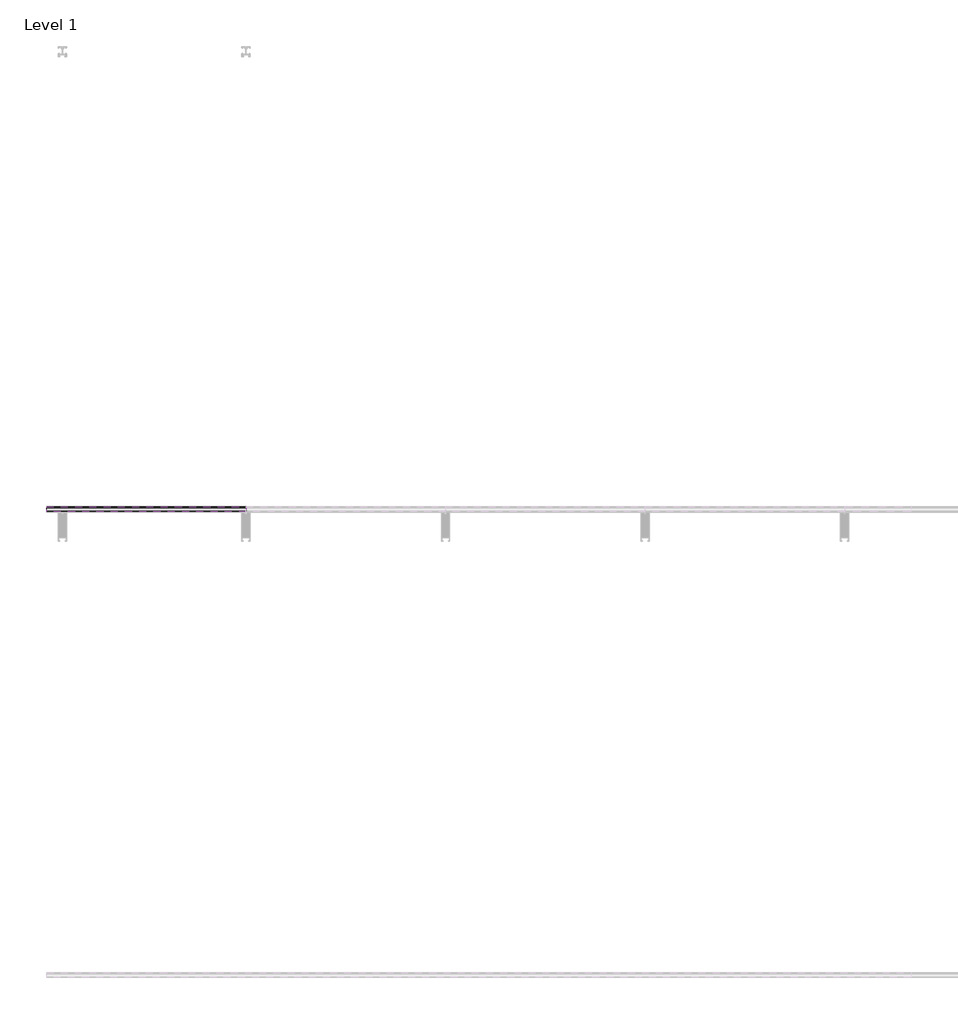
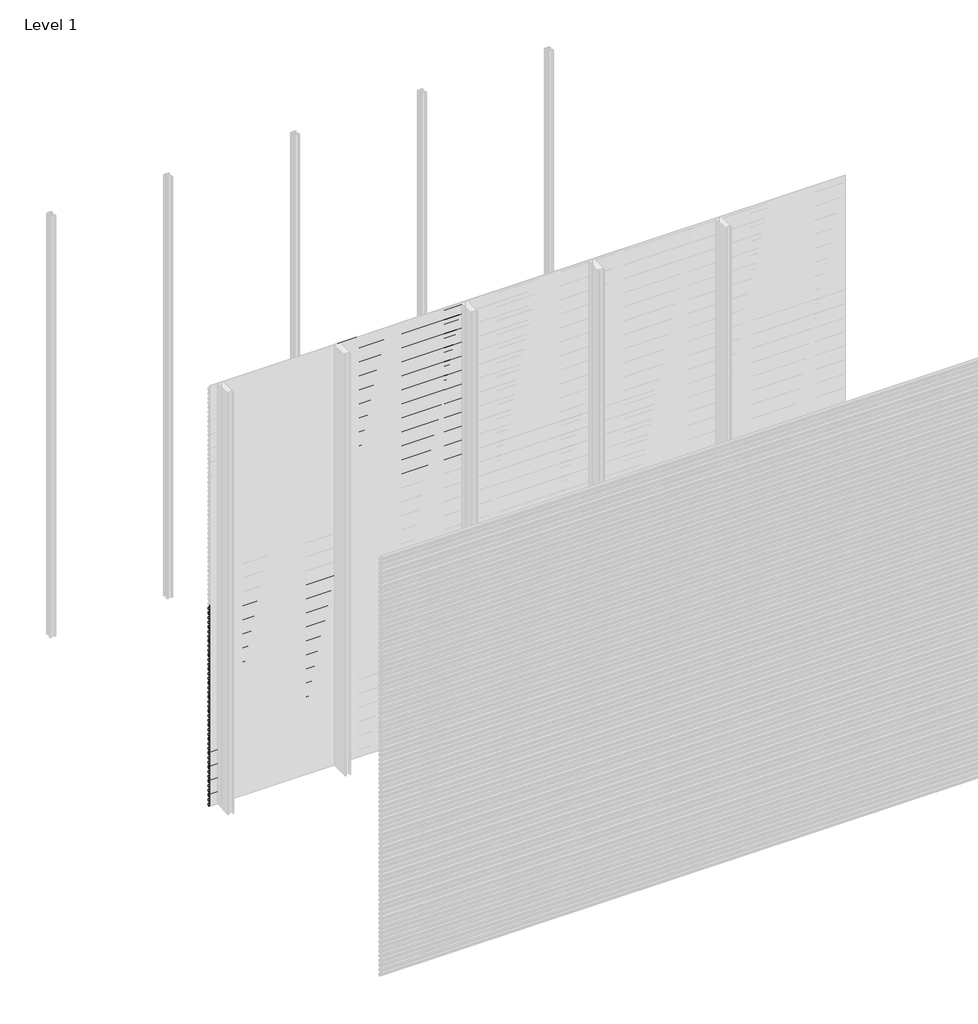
# One storey, part 15 of 96: 77 proxies.
"""IFC4 building model written with IfcOpenShell, lengths in millimetres."""

from ifc_helpers import new_model, si_unit, frame, origin, place, context, project, spatial, polyline, outline, extrude, element, save

model = new_model("IFC4")

# Units and contexts
model_context = context("Model", 3, world=origin())
ifc_project = project(units=[si_unit("LENGTHUNIT", "METRE", prefix="MILLI")], contexts=[model_context])

# Site, building, storey
site = spatial("IfcSite", under=ifc_project)
building = spatial("IfcBuilding", under=site)
storey = spatial("IfcBuildingStorey", under=building, Name="Level 1", Elevation=0.0)

# Proxies
placement = place(None, origin())
element("IfcBuildingElementProxy", 1, Name="Wall Sweeps", at=placement, inside=storey, context=model_context, shape_type="SweptSolid", body=[
    extrude(outline(polyline([(-47977.6, 1406.6655033), (-47977.6, 1392.3779188), (-47982.4114965, 1389.6), (-47982.4114965, 1390.8701706), (-47978.85, 1392.9264016), (-47978.85, 1405.9437382), (-47998.0, 1417.0000799), (-47998.0, 1431.9), (-47996.75, 1431.9), (-47996.75, 1417.7217609), (-47977.6, 1406.6655033)])), frame((0.0, 0.0, 0.0), z_axis=(1.0, 0.0, 0.0), x_axis=(0.0, 1.0, 0.0)), (0.0, 0.0, 1.0), 857.1428571),
])
element("IfcBuildingElementProxy", 2, Name="Wall Sweeps", at=placement, inside=storey, context=model_context, shape_type="SweptSolid", body=[
    extrude(outline(polyline([(-47977.6, 1373.3655033), (-47977.6, 1359.0779188), (-47982.4114965, 1356.3), (-47982.4114965, 1357.5701706), (-47978.85, 1359.6264016), (-47978.85, 1372.6437382), (-47998.0, 1383.7000799), (-47998.0, 1398.6), (-47996.75, 1398.6), (-47996.75, 1384.4217609), (-47977.6, 1373.3655033)])), frame((0.0, 0.0, 0.0), z_axis=(1.0, 0.0, 0.0), x_axis=(0.0, 1.0, 0.0)), (0.0, 0.0, 1.0), 857.1428571),
])
element("IfcBuildingElementProxy", 3, Name="Wall Sweeps", at=placement, inside=storey, context=model_context, shape_type="SweptSolid", body=[
    extrude(outline(polyline([(-47977.6, 1340.0655033), (-47977.6, 1325.7779188), (-47982.4114965, 1323.0), (-47982.4114965, 1324.2701706), (-47978.85, 1326.3264016), (-47978.85, 1339.3437382), (-47998.0, 1350.4000799), (-47998.0, 1365.3), (-47996.75, 1365.3), (-47996.75, 1351.1217609), (-47977.6, 1340.0655033)])), frame((0.0, 0.0, 0.0), z_axis=(1.0, 0.0, 0.0), x_axis=(0.0, 1.0, 0.0)), (0.0, 0.0, 1.0), 857.1428571),
])
element("IfcBuildingElementProxy", 4, Name="Wall Sweeps", at=placement, inside=storey, context=model_context, shape_type="SweptSolid", body=[
    extrude(outline(polyline([(-47977.6, 1306.7655033), (-47977.6, 1292.4779188), (-47982.4114965, 1289.7), (-47982.4114965, 1290.9701706), (-47978.85, 1293.0264016), (-47978.85, 1306.0437382), (-47998.0, 1317.1000799), (-47998.0, 1332.0), (-47996.75, 1332.0), (-47996.75, 1317.8217609), (-47977.6, 1306.7655033)])), frame((0.0, 0.0, 0.0), z_axis=(1.0, 0.0, 0.0), x_axis=(0.0, 1.0, 0.0)), (0.0, 0.0, 1.0), 857.1428571),
])
element("IfcBuildingElementProxy", 5, Name="Wall Sweeps", at=placement, inside=storey, context=model_context, shape_type="SweptSolid", body=[
    extrude(outline(polyline([(-47977.6, 1273.4655033), (-47977.6, 1259.1779188), (-47982.4114965, 1256.4), (-47982.4114965, 1257.6701706), (-47978.85, 1259.7264016), (-47978.85, 1272.7437382), (-47998.0, 1283.8000799), (-47998.0, 1298.7), (-47996.75, 1298.7), (-47996.75, 1284.5217609), (-47977.6, 1273.4655033)])), frame((0.0, 0.0, 0.0), z_axis=(1.0, 0.0, 0.0), x_axis=(0.0, 1.0, 0.0)), (0.0, 0.0, 1.0), 857.1428571),
])
element("IfcBuildingElementProxy", 6, Name="Wall Sweeps", at=placement, inside=storey, context=model_context, shape_type="SweptSolid", body=[
    extrude(outline(polyline([(-47977.6, 1240.1655033), (-47977.6, 1225.8779188), (-47982.4114965, 1223.1), (-47982.4114965, 1224.3701706), (-47978.85, 1226.4264016), (-47978.85, 1239.4437382), (-47998.0, 1250.5000799), (-47998.0, 1265.4), (-47996.75, 1265.4), (-47996.75, 1251.2217609), (-47977.6, 1240.1655033)])), frame((0.0, 0.0, 0.0), z_axis=(1.0, 0.0, 0.0), x_axis=(0.0, 1.0, 0.0)), (0.0, 0.0, 1.0), 857.1428571),
])
element("IfcBuildingElementProxy", 7, Name="Wall Sweeps", at=placement, inside=storey, context=model_context, shape_type="SweptSolid", body=[
    extrude(outline(polyline([(-47977.6, 1206.8655033), (-47977.6, 1192.5779188), (-47982.4114965, 1189.8), (-47982.4114965, 1191.0701706), (-47978.85, 1193.1264016), (-47978.85, 1206.1437382), (-47998.0, 1217.2000799), (-47998.0, 1232.1), (-47996.75, 1232.1), (-47996.75, 1217.9217609), (-47977.6, 1206.8655033)])), frame((0.0, 0.0, 0.0), z_axis=(1.0, 0.0, 0.0), x_axis=(0.0, 1.0, 0.0)), (0.0, 0.0, 1.0), 857.1428571),
])
element("IfcBuildingElementProxy", 8, Name="Wall Sweeps", at=placement, inside=storey, context=model_context, shape_type="SweptSolid", body=[
    extrude(outline(polyline([(-47977.6, 1173.5655033), (-47977.6, 1159.2779188), (-47982.4114965, 1156.5), (-47982.4114965, 1157.7701706), (-47978.85, 1159.8264016), (-47978.85, 1172.8437382), (-47998.0, 1183.9000799), (-47998.0, 1198.8), (-47996.75, 1198.8), (-47996.75, 1184.6217609), (-47977.6, 1173.5655033)])), frame((0.0, 0.0, 0.0), z_axis=(1.0, 0.0, 0.0), x_axis=(0.0, 1.0, 0.0)), (0.0, 0.0, 1.0), 857.1428571),
])
element("IfcBuildingElementProxy", 9, Name="Wall Sweeps", at=placement, inside=storey, context=model_context, shape_type="SweptSolid", body=[
    extrude(outline(polyline([(-47977.6, 1140.2655033), (-47977.6, 1125.9779188), (-47982.4114965, 1123.2), (-47982.4114965, 1124.4701706), (-47978.85, 1126.5264016), (-47978.85, 1139.5437382), (-47998.0, 1150.6000799), (-47998.0, 1165.5), (-47996.75, 1165.5), (-47996.75, 1151.3217609), (-47977.6, 1140.2655033)])), frame((0.0, 0.0, 0.0), z_axis=(1.0, 0.0, 0.0), x_axis=(0.0, 1.0, 0.0)), (0.0, 0.0, 1.0), 857.1428571),
])
element("IfcBuildingElementProxy", 10, Name="Wall Sweeps", at=placement, inside=storey, context=model_context, shape_type="SweptSolid", body=[
    extrude(outline(polyline([(-47977.6, 1106.9655033), (-47977.6, 1092.6779188), (-47982.4114965, 1089.9), (-47982.4114965, 1091.1701706), (-47978.85, 1093.2264016), (-47978.85, 1106.2437382), (-47998.0, 1117.3000799), (-47998.0, 1132.2), (-47996.75, 1132.2), (-47996.75, 1118.0217609), (-47977.6, 1106.9655033)])), frame((0.0, 0.0, 0.0), z_axis=(1.0, 0.0, 0.0), x_axis=(0.0, 1.0, 0.0)), (0.0, 0.0, 1.0), 857.1428571),
])
element("IfcBuildingElementProxy", 11, Name="Wall Sweeps", at=placement, inside=storey, context=model_context, shape_type="SweptSolid", body=[
    extrude(outline(polyline([(-47977.6, 1073.6655033), (-47977.6, 1059.3779188), (-47982.4114965, 1056.6), (-47982.4114965, 1057.8701706), (-47978.85, 1059.9264016), (-47978.85, 1072.9437382), (-47998.0, 1084.0000799), (-47998.0, 1098.9), (-47996.75, 1098.9), (-47996.75, 1084.7217609), (-47977.6, 1073.6655033)])), frame((0.0, 0.0, 0.0), z_axis=(1.0, 0.0, 0.0), x_axis=(0.0, 1.0, 0.0)), (0.0, 0.0, 1.0), 857.1428571),
])
element("IfcBuildingElementProxy", 12, Name="Wall Sweeps", at=placement, inside=storey, context=model_context, shape_type="SweptSolid", body=[
    extrude(outline(polyline([(-47977.6, 1040.3655033), (-47977.6, 1026.0779188), (-47982.4114965, 1023.3), (-47982.4114965, 1024.5701706), (-47978.85, 1026.6264016), (-47978.85, 1039.6437382), (-47998.0, 1050.7000799), (-47998.0, 1065.6), (-47996.75, 1065.6), (-47996.75, 1051.4217609), (-47977.6, 1040.3655033)])), frame((0.0, 0.0, 0.0), z_axis=(1.0, 0.0, 0.0), x_axis=(0.0, 1.0, 0.0)), (0.0, 0.0, 1.0), 857.1428571),
])
element("IfcBuildingElementProxy", 13, Name="Wall Sweeps", at=placement, inside=storey, context=model_context, shape_type="SweptSolid", body=[
    extrude(outline(polyline([(-47977.6, 1007.0655033), (-47977.6, 992.7779188), (-47982.4114965, 990.0), (-47982.4114965, 991.2701706), (-47978.85, 993.3264016), (-47978.85, 1006.3437382), (-47998.0, 1017.4000799), (-47998.0, 1032.3), (-47996.75, 1032.3), (-47996.75, 1018.1217609), (-47977.6, 1007.0655033)])), frame((0.0, 0.0, 0.0), z_axis=(1.0, 0.0, 0.0), x_axis=(0.0, 1.0, 0.0)), (0.0, 0.0, 1.0), 857.1428571),
])
element("IfcBuildingElementProxy", 14, Name="Wall Sweeps", at=placement, inside=storey, context=model_context, shape_type="SweptSolid", body=[
    extrude(outline(polyline([(-47977.6, 973.7655033), (-47977.6, 959.4779188), (-47982.4114965, 956.7), (-47982.4114965, 957.9701706), (-47978.85, 960.0264016), (-47978.85, 973.0437382), (-47998.0, 984.1000799), (-47998.0, 999.0), (-47996.75, 999.0), (-47996.75, 984.8217609), (-47977.6, 973.7655033)])), frame((0.0, 0.0, 0.0), z_axis=(1.0, 0.0, 0.0), x_axis=(0.0, 1.0, 0.0)), (0.0, 0.0, 1.0), 857.1428571),
])
element("IfcBuildingElementProxy", 15, Name="Wall Sweeps", at=placement, inside=storey, context=model_context, shape_type="SweptSolid", body=[
    extrude(outline(polyline([(-47977.6, 940.4655033), (-47977.6, 926.1779188), (-47982.4114965, 923.4), (-47982.4114965, 924.6701706), (-47978.85, 926.7264016), (-47978.85, 939.7437382), (-47998.0, 950.8000799), (-47998.0, 965.7), (-47996.75, 965.7), (-47996.75, 951.5217609), (-47977.6, 940.4655033)])), frame((0.0, 0.0, 0.0), z_axis=(1.0, 0.0, 0.0), x_axis=(0.0, 1.0, 0.0)), (0.0, 0.0, 1.0), 857.1428571),
])
element("IfcBuildingElementProxy", 16, Name="Wall Sweeps", at=placement, inside=storey, context=model_context, shape_type="SweptSolid", body=[
    extrude(outline(polyline([(-47977.6, 907.1655033), (-47977.6, 892.8779188), (-47982.4114965, 890.1), (-47982.4114965, 891.3701706), (-47978.85, 893.4264016), (-47978.85, 906.4437382), (-47998.0, 917.5000799), (-47998.0, 932.4), (-47996.75, 932.4), (-47996.75, 918.2217609), (-47977.6, 907.1655033)])), frame((0.0, 0.0, 0.0), z_axis=(1.0, 0.0, 0.0), x_axis=(0.0, 1.0, 0.0)), (0.0, 0.0, 1.0), 857.1428571),
])
element("IfcBuildingElementProxy", 17, Name="Wall Sweeps", at=placement, inside=storey, context=model_context, shape_type="SweptSolid", body=[
    extrude(outline(polyline([(-47977.6, 873.8655033), (-47977.6, 859.5779188), (-47982.4114965, 856.8), (-47982.4114965, 858.0701706), (-47978.85, 860.1264016), (-47978.85, 873.1437382), (-47998.0, 884.2000799), (-47998.0, 899.1), (-47996.75, 899.1), (-47996.75, 884.9217609), (-47977.6, 873.8655033)])), frame((0.0, 0.0, 0.0), z_axis=(1.0, 0.0, 0.0), x_axis=(0.0, 1.0, 0.0)), (0.0, 0.0, 1.0), 857.1428571),
])
element("IfcBuildingElementProxy", 18, Name="Wall Sweeps", at=placement, inside=storey, context=model_context, shape_type="SweptSolid", body=[
    extrude(outline(polyline([(-47977.6, 840.5655033), (-47977.6, 826.2779188), (-47982.4114965, 823.5), (-47982.4114965, 824.7701706), (-47978.85, 826.8264016), (-47978.85, 839.8437382), (-47998.0, 850.9000799), (-47998.0, 865.8), (-47996.75, 865.8), (-47996.75, 851.6217609), (-47977.6, 840.5655033)])), frame((0.0, 0.0, 0.0), z_axis=(1.0, 0.0, 0.0), x_axis=(0.0, 1.0, 0.0)), (0.0, 0.0, 1.0), 857.1428571),
])
element("IfcBuildingElementProxy", 19, Name="Wall Sweeps", at=placement, inside=storey, context=model_context, shape_type="SweptSolid", body=[
    extrude(outline(polyline([(-47977.6, 807.2655033), (-47977.6, 792.9779188), (-47982.4114965, 790.2), (-47982.4114965, 791.4701706), (-47978.85, 793.5264016), (-47978.85, 806.5437382), (-47998.0, 817.6000799), (-47998.0, 832.5), (-47996.75, 832.5), (-47996.75, 818.3217609), (-47977.6, 807.2655033)])), frame((0.0, 0.0, 0.0), z_axis=(1.0, 0.0, 0.0), x_axis=(0.0, 1.0, 0.0)), (0.0, 0.0, 1.0), 857.1428571),
])
element("IfcBuildingElementProxy", 20, Name="Wall Sweeps", at=placement, inside=storey, context=model_context, shape_type="SweptSolid", body=[
    extrude(outline(polyline([(-47977.6, 773.9655033), (-47977.6, 759.6779188), (-47982.4114965, 756.9), (-47982.4114965, 758.1701706), (-47978.85, 760.2264016), (-47978.85, 773.2437382), (-47998.0, 784.3000799), (-47998.0, 799.2), (-47996.75, 799.2), (-47996.75, 785.0217609), (-47977.6, 773.9655033)])), frame((0.0, 0.0, 0.0), z_axis=(1.0, 0.0, 0.0), x_axis=(0.0, 1.0, 0.0)), (0.0, 0.0, 1.0), 857.1428571),
])
element("IfcBuildingElementProxy", 21, Name="Wall Sweeps", at=placement, inside=storey, context=model_context, shape_type="SweptSolid", body=[
    extrude(outline(polyline([(-47977.6, 740.6655033), (-47977.6, 726.3779188), (-47982.4114965, 723.6), (-47982.4114965, 724.8701706), (-47978.85, 726.9264016), (-47978.85, 739.9437382), (-47998.0, 751.0000799), (-47998.0, 765.9), (-47996.75, 765.9), (-47996.75, 751.7217609), (-47977.6, 740.6655033)])), frame((0.0, 0.0, 0.0), z_axis=(1.0, 0.0, 0.0), x_axis=(0.0, 1.0, 0.0)), (0.0, 0.0, 1.0), 857.1428571),
])
element("IfcBuildingElementProxy", 22, Name="Wall Sweeps", at=placement, inside=storey, context=model_context, shape_type="SweptSolid", body=[
    extrude(outline(polyline([(-47977.6, 707.3655033), (-47977.6, 693.0779188), (-47982.4114965, 690.3), (-47982.4114965, 691.5701706), (-47978.85, 693.6264016), (-47978.85, 706.6437382), (-47998.0, 717.7000799), (-47998.0, 732.6), (-47996.75, 732.6), (-47996.75, 718.4217609), (-47977.6, 707.3655033)])), frame((0.0, 0.0, 0.0), z_axis=(1.0, 0.0, 0.0), x_axis=(0.0, 1.0, 0.0)), (0.0, 0.0, 1.0), 857.1428571),
])
element("IfcBuildingElementProxy", 23, Name="Wall Sweeps", at=placement, inside=storey, context=model_context, shape_type="SweptSolid", body=[
    extrude(outline(polyline([(-47977.6, 674.0655033), (-47977.6, 659.7779188), (-47982.4114965, 657.0), (-47982.4114965, 658.2701706), (-47978.85, 660.3264016), (-47978.85, 673.3437382), (-47998.0, 684.4000799), (-47998.0, 699.3), (-47996.75, 699.3), (-47996.75, 685.1217609), (-47977.6, 674.0655033)])), frame((0.0, 0.0, 0.0), z_axis=(1.0, 0.0, 0.0), x_axis=(0.0, 1.0, 0.0)), (0.0, 0.0, 1.0), 857.1428571),
])
element("IfcBuildingElementProxy", 24, Name="Wall Sweeps", at=placement, inside=storey, context=model_context, shape_type="SweptSolid", body=[
    extrude(outline(polyline([(-47977.6, 640.7655033), (-47977.6, 626.4779188), (-47982.4114965, 623.7), (-47982.4114965, 624.9701706), (-47978.85, 627.0264016), (-47978.85, 640.0437382), (-47998.0, 651.1000799), (-47998.0, 666.0), (-47996.75, 666.0), (-47996.75, 651.8217609), (-47977.6, 640.7655033)])), frame((0.0, 0.0, 0.0), z_axis=(1.0, 0.0, 0.0), x_axis=(0.0, 1.0, 0.0)), (0.0, 0.0, 1.0), 857.1428571),
])
element("IfcBuildingElementProxy", 25, Name="Wall Sweeps", at=placement, inside=storey, context=model_context, shape_type="SweptSolid", body=[
    extrude(outline(polyline([(-47977.6, 607.4655033), (-47977.6, 593.1779188), (-47982.4114965, 590.4), (-47982.4114965, 591.6701706), (-47978.85, 593.7264016), (-47978.85, 606.7437382), (-47998.0, 617.8000799), (-47998.0, 632.7), (-47996.75, 632.7), (-47996.75, 618.5217609), (-47977.6, 607.4655033)])), frame((0.0, 0.0, 0.0), z_axis=(1.0, 0.0, 0.0), x_axis=(0.0, 1.0, 0.0)), (0.0, 0.0, 1.0), 857.1428571),
])
element("IfcBuildingElementProxy", 26, Name="Wall Sweeps", at=placement, inside=storey, context=model_context, shape_type="SweptSolid", body=[
    extrude(outline(polyline([(-47977.6, 574.1655033), (-47977.6, 559.8779188), (-47982.4114965, 557.1), (-47982.4114965, 558.3701706), (-47978.85, 560.4264016), (-47978.85, 573.4437382), (-47998.0, 584.5000799), (-47998.0, 599.4), (-47996.75, 599.4), (-47996.75, 585.2217609), (-47977.6, 574.1655033)])), frame((0.0, 0.0, 0.0), z_axis=(1.0, 0.0, 0.0), x_axis=(0.0, 1.0, 0.0)), (0.0, 0.0, 1.0), 857.1428571),
])
element("IfcBuildingElementProxy", 27, Name="Wall Sweeps", at=placement, inside=storey, context=model_context, shape_type="SweptSolid", body=[
    extrude(outline(polyline([(-47977.6, 540.8655033), (-47977.6, 526.5779188), (-47982.4114965, 523.8), (-47982.4114965, 525.0701706), (-47978.85, 527.1264016), (-47978.85, 540.1437382), (-47998.0, 551.2000799), (-47998.0, 566.1), (-47996.75, 566.1), (-47996.75, 551.9217609), (-47977.6, 540.8655033)])), frame((0.0, 0.0, 0.0), z_axis=(1.0, 0.0, 0.0), x_axis=(0.0, 1.0, 0.0)), (0.0, 0.0, 1.0), 857.1428571),
])
element("IfcBuildingElementProxy", 28, Name="Wall Sweeps", at=placement, inside=storey, context=model_context, shape_type="SweptSolid", body=[
    extrude(outline(polyline([(-47977.6, 507.5655033), (-47977.6, 493.2779188), (-47982.4114965, 490.5), (-47982.4114965, 491.7701706), (-47978.85, 493.8264016), (-47978.85, 506.8437382), (-47998.0, 517.9000799), (-47998.0, 532.8), (-47996.75, 532.8), (-47996.75, 518.6217609), (-47977.6, 507.5655033)])), frame((0.0, 0.0, 0.0), z_axis=(1.0, 0.0, 0.0), x_axis=(0.0, 1.0, 0.0)), (0.0, 0.0, 1.0), 857.1428571),
])
element("IfcBuildingElementProxy", 29, Name="Wall Sweeps", at=placement, inside=storey, context=model_context, shape_type="SweptSolid", body=[
    extrude(outline(polyline([(-47977.6, 474.2655033), (-47977.6, 459.9779188), (-47982.4114965, 457.2), (-47982.4114965, 458.4701706), (-47978.85, 460.5264016), (-47978.85, 473.5437382), (-47998.0, 484.6000799), (-47998.0, 499.5), (-47996.75, 499.5), (-47996.75, 485.3217609), (-47977.6, 474.2655033)])), frame((0.0, 0.0, 0.0), z_axis=(1.0, 0.0, 0.0), x_axis=(0.0, 1.0, 0.0)), (0.0, 0.0, 1.0), 857.1428571),
])
element("IfcBuildingElementProxy", 30, Name="Wall Sweeps", at=placement, inside=storey, context=model_context, shape_type="SweptSolid", body=[
    extrude(outline(polyline([(-47977.6, 440.9655033), (-47977.6, 426.6779188), (-47982.4114965, 423.9), (-47982.4114965, 425.1701706), (-47978.85, 427.2264016), (-47978.85, 440.2437382), (-47998.0, 451.3000799), (-47998.0, 466.2), (-47996.75, 466.2), (-47996.75, 452.0217609), (-47977.6, 440.9655033)])), frame((0.0, 0.0, 0.0), z_axis=(1.0, 0.0, 0.0), x_axis=(0.0, 1.0, 0.0)), (0.0, 0.0, 1.0), 857.1428571),
])
element("IfcBuildingElementProxy", 31, Name="Wall Sweeps", at=placement, inside=storey, context=model_context, shape_type="SweptSolid", body=[
    extrude(outline(polyline([(-47977.6, 407.6655033), (-47977.6, 393.3779188), (-47982.4114965, 390.6), (-47982.4114965, 391.8701706), (-47978.85, 393.9264016), (-47978.85, 406.9437382), (-47998.0, 418.0000799), (-47998.0, 432.9), (-47996.75, 432.9), (-47996.75, 418.7217609), (-47977.6, 407.6655033)])), frame((0.0, 0.0, 0.0), z_axis=(1.0, 0.0, 0.0), x_axis=(0.0, 1.0, 0.0)), (0.0, 0.0, 1.0), 857.1428571),
])
element("IfcBuildingElementProxy", 32, Name="Wall Sweeps", at=placement, inside=storey, context=model_context, shape_type="SweptSolid", body=[
    extrude(outline(polyline([(-47977.6, 374.3655033), (-47977.6, 360.0779188), (-47982.4114965, 357.3), (-47982.4114965, 358.5701706), (-47978.85, 360.6264016), (-47978.85, 373.6437382), (-47998.0, 384.7000799), (-47998.0, 399.6), (-47996.75, 399.6), (-47996.75, 385.4217609), (-47977.6, 374.3655033)])), frame((0.0, 0.0, 0.0), z_axis=(1.0, 0.0, 0.0), x_axis=(0.0, 1.0, 0.0)), (0.0, 0.0, 1.0), 857.1428571),
])
element("IfcBuildingElementProxy", 33, Name="Wall Sweeps", at=placement, inside=storey, context=model_context, shape_type="SweptSolid", body=[
    extrude(outline(polyline([(-47977.6, 341.0655033), (-47977.6, 326.7779188), (-47982.4114965, 324.0), (-47982.4114965, 325.2701706), (-47978.85, 327.3264016), (-47978.85, 340.3437382), (-47998.0, 351.4000799), (-47998.0, 366.3), (-47996.75, 366.3), (-47996.75, 352.1217609), (-47977.6, 341.0655033)])), frame((0.0, 0.0, 0.0), z_axis=(1.0, 0.0, 0.0), x_axis=(0.0, 1.0, 0.0)), (0.0, 0.0, 1.0), 857.1428571),
])
element("IfcBuildingElementProxy", 34, Name="Wall Sweeps", at=placement, inside=storey, context=model_context, shape_type="SweptSolid", body=[
    extrude(outline(polyline([(-47977.6, 307.7655033), (-47977.6, 293.4779188), (-47982.4114965, 290.7), (-47982.4114965, 291.9701706), (-47978.85, 294.0264016), (-47978.85, 307.0437382), (-47998.0, 318.1000799), (-47998.0, 333.0), (-47996.75, 333.0), (-47996.75, 318.8217609), (-47977.6, 307.7655033)])), frame((0.0, 0.0, 0.0), z_axis=(1.0, 0.0, 0.0), x_axis=(0.0, 1.0, 0.0)), (0.0, 0.0, 1.0), 857.1428571),
])
element("IfcBuildingElementProxy", 35, Name="Wall Sweeps", at=placement, inside=storey, context=model_context, shape_type="SweptSolid", body=[
    extrude(outline(polyline([(-47977.6, 274.4655033), (-47977.6, 260.1779188), (-47982.4114965, 257.4), (-47982.4114965, 258.6701706), (-47978.85, 260.7264016), (-47978.85, 273.7437382), (-47998.0, 284.8000799), (-47998.0, 299.7), (-47996.75, 299.7), (-47996.75, 285.5217609), (-47977.6, 274.4655033)])), frame((0.0, 0.0, 0.0), z_axis=(1.0, 0.0, 0.0), x_axis=(0.0, 1.0, 0.0)), (0.0, 0.0, 1.0), 857.1428571),
])
element("IfcBuildingElementProxy", 36, Name="Wall Sweeps", at=placement, inside=storey, context=model_context, shape_type="SweptSolid", body=[
    extrude(outline(polyline([(-47977.6, 241.1655033), (-47977.6, 226.8779188), (-47982.4114965, 224.1), (-47982.4114965, 225.3701706), (-47978.85, 227.4264016), (-47978.85, 240.4437382), (-47998.0, 251.5000799), (-47998.0, 266.4), (-47996.75, 266.4), (-47996.75, 252.2217609), (-47977.6, 241.1655033)])), frame((0.0, 0.0, 0.0), z_axis=(1.0, 0.0, 0.0), x_axis=(0.0, 1.0, 0.0)), (0.0, 0.0, 1.0), 857.1428571),
])
element("IfcBuildingElementProxy", 37, Name="Wall Sweeps", at=placement, inside=storey, context=model_context, shape_type="SweptSolid", body=[
    extrude(outline(polyline([(-47977.6, 207.8655033), (-47977.6, 193.5779188), (-47982.4114965, 190.8), (-47982.4114965, 192.0701706), (-47978.85, 194.1264016), (-47978.85, 207.1437382), (-47998.0, 218.2000799), (-47998.0, 233.1), (-47996.75, 233.1), (-47996.75, 218.9217609), (-47977.6, 207.8655033)])), frame((0.0, 0.0, 0.0), z_axis=(1.0, 0.0, 0.0), x_axis=(0.0, 1.0, 0.0)), (0.0, 0.0, 1.0), 857.1428571),
])
element("IfcBuildingElementProxy", 38, Name="Wall Sweeps", at=placement, inside=storey, context=model_context, shape_type="SweptSolid", body=[
    extrude(outline(polyline([(-47977.6, 174.5655033), (-47977.6, 160.2779188), (-47982.4114965, 157.5), (-47982.4114965, 158.7701706), (-47978.85, 160.8264016), (-47978.85, 173.8437382), (-47998.0, 184.9000799), (-47998.0, 199.8), (-47996.75, 199.8), (-47996.75, 185.6217609), (-47977.6, 174.5655033)])), frame((0.0, 0.0, 0.0), z_axis=(1.0, 0.0, 0.0), x_axis=(0.0, 1.0, 0.0)), (0.0, 0.0, 1.0), 857.1428571),
])
element("IfcBuildingElementProxy", 39, Name="Wall Sweeps", at=placement, inside=storey, context=model_context, shape_type="SweptSolid", body=[
    extrude(outline(polyline([(-47977.6, 141.2655033), (-47977.6, 126.9779188), (-47982.4114965, 124.2), (-47982.4114965, 125.4701706), (-47978.85, 127.5264016), (-47978.85, 140.5437382), (-47998.0, 151.6000799), (-47998.0, 166.5), (-47996.75, 166.5), (-47996.75, 152.3217609), (-47977.6, 141.2655033)])), frame((0.0, 0.0, 0.0), z_axis=(1.0, 0.0, 0.0), x_axis=(0.0, 1.0, 0.0)), (0.0, 0.0, 1.0), 857.1428571),
])
element("IfcBuildingElementProxy", 40, Name="Wall Sweeps", at=placement, inside=storey, context=model_context, shape_type="SweptSolid", body=[
    extrude(outline(polyline([(-47977.6, 107.9655033), (-47977.6, 93.6779188), (-47982.4114965, 90.9), (-47982.4114965, 92.1701706), (-47978.85, 94.2264016), (-47978.85, 107.2437382), (-47998.0, 118.3000799), (-47998.0, 133.2), (-47996.75, 133.2), (-47996.75, 119.0217609), (-47977.6, 107.9655033)])), frame((0.0, 0.0, 0.0), z_axis=(1.0, 0.0, 0.0), x_axis=(0.0, 1.0, 0.0)), (0.0, 0.0, 1.0), 857.1428571),
])
element("IfcBuildingElementProxy", 41, Name="Wall Sweeps", at=placement, inside=storey, context=model_context, shape_type="SweptSolid", body=[
    extrude(outline(polyline([(-47977.6, 74.6655033), (-47977.6, 60.3779188), (-47982.4114965, 57.6), (-47982.4114965, 58.8701706), (-47978.85, 60.9264016), (-47978.85, 73.9437382), (-47998.0, 85.0000799), (-47998.0, 99.9), (-47996.75, 99.9), (-47996.75, 85.7217609), (-47977.6, 74.6655033)])), frame((0.0, 0.0, 0.0), z_axis=(1.0, 0.0, 0.0), x_axis=(0.0, 1.0, 0.0)), (0.0, 0.0, 1.0), 857.1428571),
])
element("IfcBuildingElementProxy", 42, Name="Wall Sweeps", at=placement, inside=storey, context=model_context, shape_type="SweptSolid", body=[
    extrude(outline(polyline([(-47977.6, 41.3655033), (-47977.6, 27.0779188), (-47982.4114965, 24.3), (-47982.4114965, 25.5701706), (-47978.85, 27.6264016), (-47978.85, 40.6437382), (-47998.0, 51.7000799), (-47998.0, 66.6), (-47996.75, 66.6), (-47996.75, 52.4217609), (-47977.6, 41.3655033)])), frame((0.0, 0.0, 0.0), z_axis=(1.0, 0.0, 0.0), x_axis=(0.0, 1.0, 0.0)), (0.0, 0.0, 1.0), 857.1428571),
])
element("IfcBuildingElementProxy", 43, Name="Wall Sweeps", at=placement, inside=storey, context=model_context, shape_type="SweptSolid", body=[
    extrude(outline(polyline([(-47977.6, 8.0655033), (-47977.6, -6.2220812), (-47982.4114965, -9.0), (-47982.4114965, -7.7298294), (-47978.85, -5.6735984), (-47978.85, 7.3437382), (-47998.0, 18.4000799), (-47998.0, 33.3), (-47996.75, 33.3), (-47996.75, 19.1217609), (-47977.6, 8.0655033)])), frame((0.0, 0.0, 0.0), z_axis=(1.0, 0.0, 0.0), x_axis=(0.0, 1.0, 0.0)), (0.0, 0.0, 1.0), 857.1428571),
])
element("IfcBuildingElementProxy", 44, Name="Wall Sweeps", at=placement, inside=storey, context=model_context, shape_type="SweptSolid", body=[
    extrude(outline(polyline([(-47977.6, 2971.7655033), (-47977.6, 2957.4779188), (-47982.4114965, 2954.7), (-47982.4114965, 2955.9701706), (-47978.85, 2958.0264016), (-47978.85, 2971.0437382), (-47998.0, 2982.1000799), (-47998.0, 2997.0), (-47996.75, 2997.0), (-47996.75, 2982.8217609), (-47977.6, 2971.7655033)])), frame((857.1428571, 0.0, 0.0), z_axis=(1.0, 0.0, 0.0), x_axis=(0.0, 1.0, 0.0)), (0.0, 0.0, 1.0), 857.1428571),
])
element("IfcBuildingElementProxy", 45, Name="Wall Sweeps", at=placement, inside=storey, context=model_context, shape_type="SweptSolid", body=[
    extrude(outline(polyline([(-47977.6, 2938.4655033), (-47977.6, 2924.1779188), (-47982.4114965, 2921.4), (-47982.4114965, 2922.6701706), (-47978.85, 2924.7264016), (-47978.85, 2937.7437382), (-47998.0, 2948.8000799), (-47998.0, 2963.7), (-47996.75, 2963.7), (-47996.75, 2949.5217609), (-47977.6, 2938.4655033)])), frame((857.1428571, 0.0, 0.0), z_axis=(1.0, 0.0, 0.0), x_axis=(0.0, 1.0, 0.0)), (0.0, 0.0, 1.0), 857.1428571),
])
element("IfcBuildingElementProxy", 46, Name="Wall Sweeps", at=placement, inside=storey, context=model_context, shape_type="SweptSolid", body=[
    extrude(outline(polyline([(-47977.6, 2905.1655033), (-47977.6, 2890.8779188), (-47982.4114965, 2888.1), (-47982.4114965, 2889.3701706), (-47978.85, 2891.4264016), (-47978.85, 2904.4437382), (-47998.0, 2915.5000799), (-47998.0, 2930.4), (-47996.75, 2930.4), (-47996.75, 2916.2217609), (-47977.6, 2905.1655033)])), frame((857.1428571, 0.0, 0.0), z_axis=(1.0, 0.0, 0.0), x_axis=(0.0, 1.0, 0.0)), (0.0, 0.0, 1.0), 857.1428571),
])
element("IfcBuildingElementProxy", 47, Name="Wall Sweeps", at=placement, inside=storey, context=model_context, shape_type="SweptSolid", body=[
    extrude(outline(polyline([(-47977.6, 2871.8655033), (-47977.6, 2857.5779188), (-47982.4114965, 2854.8), (-47982.4114965, 2856.0701706), (-47978.85, 2858.1264016), (-47978.85, 2871.1437382), (-47998.0, 2882.2000799), (-47998.0, 2897.1), (-47996.75, 2897.1), (-47996.75, 2882.9217609), (-47977.6, 2871.8655033)])), frame((857.1428571, 0.0, 0.0), z_axis=(1.0, 0.0, 0.0), x_axis=(0.0, 1.0, 0.0)), (0.0, 0.0, 1.0), 857.1428571),
])
element("IfcBuildingElementProxy", 48, Name="Wall Sweeps", at=placement, inside=storey, context=model_context, shape_type="SweptSolid", body=[
    extrude(outline(polyline([(-47977.6, 2838.5655033), (-47977.6, 2824.2779188), (-47982.4114965, 2821.5), (-47982.4114965, 2822.7701706), (-47978.85, 2824.8264016), (-47978.85, 2837.8437382), (-47998.0, 2848.9000799), (-47998.0, 2863.8), (-47996.75, 2863.8), (-47996.75, 2849.6217609), (-47977.6, 2838.5655033)])), frame((857.1428571, 0.0, 0.0), z_axis=(1.0, 0.0, 0.0), x_axis=(0.0, 1.0, 0.0)), (0.0, 0.0, 1.0), 857.1428571),
])
element("IfcBuildingElementProxy", 49, Name="Wall Sweeps", at=placement, inside=storey, context=model_context, shape_type="SweptSolid", body=[
    extrude(outline(polyline([(-47977.6, 2805.2655033), (-47977.6, 2790.9779188), (-47982.4114965, 2788.2), (-47982.4114965, 2789.4701706), (-47978.85, 2791.5264016), (-47978.85, 2804.5437382), (-47998.0, 2815.6000799), (-47998.0, 2830.5), (-47996.75, 2830.5), (-47996.75, 2816.3217609), (-47977.6, 2805.2655033)])), frame((857.1428571, 0.0, 0.0), z_axis=(1.0, 0.0, 0.0), x_axis=(0.0, 1.0, 0.0)), (0.0, 0.0, 1.0), 857.1428571),
])
element("IfcBuildingElementProxy", 50, Name="Wall Sweeps", at=placement, inside=storey, context=model_context, shape_type="SweptSolid", body=[
    extrude(outline(polyline([(-47977.6, 2771.9655033), (-47977.6, 2757.6779188), (-47982.4114965, 2754.9), (-47982.4114965, 2756.1701706), (-47978.85, 2758.2264016), (-47978.85, 2771.2437382), (-47998.0, 2782.3000799), (-47998.0, 2797.2), (-47996.75, 2797.2), (-47996.75, 2783.0217609), (-47977.6, 2771.9655033)])), frame((857.1428571, 0.0, 0.0), z_axis=(1.0, 0.0, 0.0), x_axis=(0.0, 1.0, 0.0)), (0.0, 0.0, 1.0), 857.1428571),
])
element("IfcBuildingElementProxy", 51, Name="Wall Sweeps", at=placement, inside=storey, context=model_context, shape_type="SweptSolid", body=[
    extrude(outline(polyline([(-47977.6, 2738.6655033), (-47977.6, 2724.3779188), (-47982.4114965, 2721.6), (-47982.4114965, 2722.8701706), (-47978.85, 2724.9264016), (-47978.85, 2737.9437382), (-47998.0, 2749.0000799), (-47998.0, 2763.9), (-47996.75, 2763.9), (-47996.75, 2749.7217609), (-47977.6, 2738.6655033)])), frame((857.1428571, 0.0, 0.0), z_axis=(1.0, 0.0, 0.0), x_axis=(0.0, 1.0, 0.0)), (0.0, 0.0, 1.0), 857.1428571),
])
element("IfcBuildingElementProxy", 52, Name="Wall Sweeps", at=placement, inside=storey, context=model_context, shape_type="SweptSolid", body=[
    extrude(outline(polyline([(-47977.6, 2705.3655033), (-47977.6, 2691.0779188), (-47982.4114965, 2688.3), (-47982.4114965, 2689.5701706), (-47978.85, 2691.6264016), (-47978.85, 2704.6437382), (-47998.0, 2715.7000799), (-47998.0, 2730.6), (-47996.75, 2730.6), (-47996.75, 2716.4217609), (-47977.6, 2705.3655033)])), frame((857.1428571, 0.0, 0.0), z_axis=(1.0, 0.0, 0.0), x_axis=(0.0, 1.0, 0.0)), (0.0, 0.0, 1.0), 857.1428571),
])
element("IfcBuildingElementProxy", 53, Name="Wall Sweeps", at=placement, inside=storey, context=model_context, shape_type="SweptSolid", body=[
    extrude(outline(polyline([(-47977.6, 2672.0655033), (-47977.6, 2657.7779188), (-47982.4114965, 2655.0), (-47982.4114965, 2656.2701706), (-47978.85, 2658.3264016), (-47978.85, 2671.3437382), (-47998.0, 2682.4000799), (-47998.0, 2697.3), (-47996.75, 2697.3), (-47996.75, 2683.1217609), (-47977.6, 2672.0655033)])), frame((857.1428571, 0.0, 0.0), z_axis=(1.0, 0.0, 0.0), x_axis=(0.0, 1.0, 0.0)), (0.0, 0.0, 1.0), 857.1428571),
])
element("IfcBuildingElementProxy", 54, Name="Wall Sweeps", at=placement, inside=storey, context=model_context, shape_type="SweptSolid", body=[
    extrude(outline(polyline([(-47977.6, 2638.7655033), (-47977.6, 2624.4779188), (-47982.4114965, 2621.7), (-47982.4114965, 2622.9701706), (-47978.85, 2625.0264016), (-47978.85, 2638.0437382), (-47998.0, 2649.1000799), (-47998.0, 2664.0), (-47996.75, 2664.0), (-47996.75, 2649.8217609), (-47977.6, 2638.7655033)])), frame((857.1428571, 0.0, 0.0), z_axis=(1.0, 0.0, 0.0), x_axis=(0.0, 1.0, 0.0)), (0.0, 0.0, 1.0), 857.1428571),
])
element("IfcBuildingElementProxy", 55, Name="Wall Sweeps", at=placement, inside=storey, context=model_context, shape_type="SweptSolid", body=[
    extrude(outline(polyline([(-47977.6, 2605.4655033), (-47977.6, 2591.1779188), (-47982.4114965, 2588.4), (-47982.4114965, 2589.6701706), (-47978.85, 2591.7264016), (-47978.85, 2604.7437382), (-47998.0, 2615.8000799), (-47998.0, 2630.7), (-47996.75, 2630.7), (-47996.75, 2616.5217609), (-47977.6, 2605.4655033)])), frame((857.1428571, 0.0, 0.0), z_axis=(1.0, 0.0, 0.0), x_axis=(0.0, 1.0, 0.0)), (0.0, 0.0, 1.0), 857.1428571),
])
element("IfcBuildingElementProxy", 56, Name="Wall Sweeps", at=placement, inside=storey, context=model_context, shape_type="SweptSolid", body=[
    extrude(outline(polyline([(-47977.6, 2572.1655033), (-47977.6, 2557.8779188), (-47982.4114965, 2555.1), (-47982.4114965, 2556.3701706), (-47978.85, 2558.4264016), (-47978.85, 2571.4437382), (-47998.0, 2582.5000799), (-47998.0, 2597.4), (-47996.75, 2597.4), (-47996.75, 2583.2217609), (-47977.6, 2572.1655033)])), frame((857.1428571, 0.0, 0.0), z_axis=(1.0, 0.0, 0.0), x_axis=(0.0, 1.0, 0.0)), (0.0, 0.0, 1.0), 857.1428571),
])
element("IfcBuildingElementProxy", 57, Name="Wall Sweeps", at=placement, inside=storey, context=model_context, shape_type="SweptSolid", body=[
    extrude(outline(polyline([(-47977.6, 2538.8655033), (-47977.6, 2524.5779188), (-47982.4114965, 2521.8), (-47982.4114965, 2523.0701706), (-47978.85, 2525.1264016), (-47978.85, 2538.1437382), (-47998.0, 2549.2000799), (-47998.0, 2564.1), (-47996.75, 2564.1), (-47996.75, 2549.9217609), (-47977.6, 2538.8655033)])), frame((857.1428571, 0.0, 0.0), z_axis=(1.0, 0.0, 0.0), x_axis=(0.0, 1.0, 0.0)), (0.0, 0.0, 1.0), 857.1428571),
])
element("IfcBuildingElementProxy", 58, Name="Wall Sweeps", at=placement, inside=storey, context=model_context, shape_type="SweptSolid", body=[
    extrude(outline(polyline([(-47977.6, 2505.5655033), (-47977.6, 2491.2779188), (-47982.4114965, 2488.5), (-47982.4114965, 2489.7701706), (-47978.85, 2491.8264016), (-47978.85, 2504.8437382), (-47998.0, 2515.9000799), (-47998.0, 2530.8), (-47996.75, 2530.8), (-47996.75, 2516.6217609), (-47977.6, 2505.5655033)])), frame((857.1428571, 0.0, 0.0), z_axis=(1.0, 0.0, 0.0), x_axis=(0.0, 1.0, 0.0)), (0.0, 0.0, 1.0), 857.1428571),
])
element("IfcBuildingElementProxy", 59, Name="Wall Sweeps", at=placement, inside=storey, context=model_context, shape_type="SweptSolid", body=[
    extrude(outline(polyline([(-47977.6, 2472.2655033), (-47977.6, 2457.9779188), (-47982.4114965, 2455.2), (-47982.4114965, 2456.4701706), (-47978.85, 2458.5264016), (-47978.85, 2471.5437382), (-47998.0, 2482.6000799), (-47998.0, 2497.5), (-47996.75, 2497.5), (-47996.75, 2483.3217609), (-47977.6, 2472.2655033)])), frame((857.1428571, 0.0, 0.0), z_axis=(1.0, 0.0, 0.0), x_axis=(0.0, 1.0, 0.0)), (0.0, 0.0, 1.0), 857.1428571),
])
element("IfcBuildingElementProxy", 60, Name="Wall Sweeps", at=placement, inside=storey, context=model_context, shape_type="SweptSolid", body=[
    extrude(outline(polyline([(-47977.6, 2438.9655033), (-47977.6, 2424.6779188), (-47982.4114965, 2421.9), (-47982.4114965, 2423.1701706), (-47978.85, 2425.2264016), (-47978.85, 2438.2437382), (-47998.0, 2449.3000799), (-47998.0, 2464.2), (-47996.75, 2464.2), (-47996.75, 2450.0217609), (-47977.6, 2438.9655033)])), frame((857.1428571, 0.0, 0.0), z_axis=(1.0, 0.0, 0.0), x_axis=(0.0, 1.0, 0.0)), (0.0, 0.0, 1.0), 857.1428571),
])
element("IfcBuildingElementProxy", 61, Name="Wall Sweeps", at=placement, inside=storey, context=model_context, shape_type="SweptSolid", body=[
    extrude(outline(polyline([(-47977.6, 2405.6655033), (-47977.6, 2391.3779188), (-47982.4114965, 2388.6), (-47982.4114965, 2389.8701706), (-47978.85, 2391.9264016), (-47978.85, 2404.9437382), (-47998.0, 2416.0000799), (-47998.0, 2430.9), (-47996.75, 2430.9), (-47996.75, 2416.7217609), (-47977.6, 2405.6655033)])), frame((857.1428571, 0.0, 0.0), z_axis=(1.0, 0.0, 0.0), x_axis=(0.0, 1.0, 0.0)), (0.0, 0.0, 1.0), 857.1428571),
])
element("IfcBuildingElementProxy", 62, Name="Wall Sweeps", at=placement, inside=storey, context=model_context, shape_type="SweptSolid", body=[
    extrude(outline(polyline([(-47977.6, 2372.3655033), (-47977.6, 2358.0779188), (-47982.4114965, 2355.3), (-47982.4114965, 2356.5701706), (-47978.85, 2358.6264016), (-47978.85, 2371.6437382), (-47998.0, 2382.7000799), (-47998.0, 2397.6), (-47996.75, 2397.6), (-47996.75, 2383.4217609), (-47977.6, 2372.3655033)])), frame((857.1428571, 0.0, 0.0), z_axis=(1.0, 0.0, 0.0), x_axis=(0.0, 1.0, 0.0)), (0.0, 0.0, 1.0), 857.1428571),
])
element("IfcBuildingElementProxy", 63, Name="Wall Sweeps", at=placement, inside=storey, context=model_context, shape_type="SweptSolid", body=[
    extrude(outline(polyline([(-47977.6, 2339.0655033), (-47977.6, 2324.7779188), (-47982.4114965, 2322.0), (-47982.4114965, 2323.2701706), (-47978.85, 2325.3264016), (-47978.85, 2338.3437382), (-47998.0, 2349.4000799), (-47998.0, 2364.3), (-47996.75, 2364.3), (-47996.75, 2350.1217609), (-47977.6, 2339.0655033)])), frame((857.1428571, 0.0, 0.0), z_axis=(1.0, 0.0, 0.0), x_axis=(0.0, 1.0, 0.0)), (0.0, 0.0, 1.0), 857.1428571),
])
element("IfcBuildingElementProxy", 64, Name="Wall Sweeps", at=placement, inside=storey, context=model_context, shape_type="SweptSolid", body=[
    extrude(outline(polyline([(-47977.6, 2305.7655033), (-47977.6, 2291.4779188), (-47982.4114965, 2288.7), (-47982.4114965, 2289.9701706), (-47978.85, 2292.0264016), (-47978.85, 2305.0437382), (-47998.0, 2316.1000799), (-47998.0, 2331.0), (-47996.75, 2331.0), (-47996.75, 2316.8217609), (-47977.6, 2305.7655033)])), frame((857.1428571, 0.0, 0.0), z_axis=(1.0, 0.0, 0.0), x_axis=(0.0, 1.0, 0.0)), (0.0, 0.0, 1.0), 857.1428571),
])
element("IfcBuildingElementProxy", 65, Name="Wall Sweeps", at=placement, inside=storey, context=model_context, shape_type="SweptSolid", body=[
    extrude(outline(polyline([(-47977.6, 2272.4655033), (-47977.6, 2258.1779188), (-47982.4114965, 2255.4), (-47982.4114965, 2256.6701706), (-47978.85, 2258.7264016), (-47978.85, 2271.7437382), (-47998.0, 2282.8000799), (-47998.0, 2297.7), (-47996.75, 2297.7), (-47996.75, 2283.5217609), (-47977.6, 2272.4655033)])), frame((857.1428571, 0.0, 0.0), z_axis=(1.0, 0.0, 0.0), x_axis=(0.0, 1.0, 0.0)), (0.0, 0.0, 1.0), 857.1428571),
])
element("IfcBuildingElementProxy", 66, Name="Wall Sweeps", at=placement, inside=storey, context=model_context, shape_type="SweptSolid", body=[
    extrude(outline(polyline([(-47977.6, 2239.1655033), (-47977.6, 2224.8779188), (-47982.4114965, 2222.1), (-47982.4114965, 2223.3701706), (-47978.85, 2225.4264016), (-47978.85, 2238.4437382), (-47998.0, 2249.5000799), (-47998.0, 2264.4), (-47996.75, 2264.4), (-47996.75, 2250.2217609), (-47977.6, 2239.1655033)])), frame((857.1428571, 0.0, 0.0), z_axis=(1.0, 0.0, 0.0), x_axis=(0.0, 1.0, 0.0)), (0.0, 0.0, 1.0), 857.1428571),
])
element("IfcBuildingElementProxy", 67, Name="Wall Sweeps", at=placement, inside=storey, context=model_context, shape_type="SweptSolid", body=[
    extrude(outline(polyline([(-47977.6, 2205.8655033), (-47977.6, 2191.5779188), (-47982.4114965, 2188.8), (-47982.4114965, 2190.0701706), (-47978.85, 2192.1264016), (-47978.85, 2205.1437382), (-47998.0, 2216.2000799), (-47998.0, 2231.1), (-47996.75, 2231.1), (-47996.75, 2216.9217609), (-47977.6, 2205.8655033)])), frame((857.1428571, 0.0, 0.0), z_axis=(1.0, 0.0, 0.0), x_axis=(0.0, 1.0, 0.0)), (0.0, 0.0, 1.0), 857.1428571),
])
element("IfcBuildingElementProxy", 68, Name="Wall Sweeps", at=placement, inside=storey, context=model_context, shape_type="SweptSolid", body=[
    extrude(outline(polyline([(-47977.6, 2172.5655033), (-47977.6, 2158.2779188), (-47982.4114965, 2155.5), (-47982.4114965, 2156.7701706), (-47978.85, 2158.8264016), (-47978.85, 2171.8437382), (-47998.0, 2182.9000799), (-47998.0, 2197.8), (-47996.75, 2197.8), (-47996.75, 2183.6217609), (-47977.6, 2172.5655033)])), frame((857.1428571, 0.0, 0.0), z_axis=(1.0, 0.0, 0.0), x_axis=(0.0, 1.0, 0.0)), (0.0, 0.0, 1.0), 857.1428571),
])
element("IfcBuildingElementProxy", 69, Name="Wall Sweeps", at=placement, inside=storey, context=model_context, shape_type="SweptSolid", body=[
    extrude(outline(polyline([(-47977.6, 2139.2655033), (-47977.6, 2124.9779188), (-47982.4114965, 2122.2), (-47982.4114965, 2123.4701706), (-47978.85, 2125.5264016), (-47978.85, 2138.5437382), (-47998.0, 2149.6000799), (-47998.0, 2164.5), (-47996.75, 2164.5), (-47996.75, 2150.3217609), (-47977.6, 2139.2655033)])), frame((857.1428571, 0.0, 0.0), z_axis=(1.0, 0.0, 0.0), x_axis=(0.0, 1.0, 0.0)), (0.0, 0.0, 1.0), 857.1428571),
])
element("IfcBuildingElementProxy", 70, Name="Wall Sweeps", at=placement, inside=storey, context=model_context, shape_type="SweptSolid", body=[
    extrude(outline(polyline([(-47977.6, 2105.9655033), (-47977.6, 2091.6779188), (-47982.4114965, 2088.9), (-47982.4114965, 2090.1701706), (-47978.85, 2092.2264016), (-47978.85, 2105.2437382), (-47998.0, 2116.3000799), (-47998.0, 2131.2), (-47996.75, 2131.2), (-47996.75, 2117.0217609), (-47977.6, 2105.9655033)])), frame((857.1428571, 0.0, 0.0), z_axis=(1.0, 0.0, 0.0), x_axis=(0.0, 1.0, 0.0)), (0.0, 0.0, 1.0), 857.1428571),
])
element("IfcBuildingElementProxy", 71, Name="Wall Sweeps", at=placement, inside=storey, context=model_context, shape_type="SweptSolid", body=[
    extrude(outline(polyline([(-47977.6, 2072.6655033), (-47977.6, 2058.3779188), (-47982.4114965, 2055.6), (-47982.4114965, 2056.8701706), (-47978.85, 2058.9264016), (-47978.85, 2071.9437382), (-47998.0, 2083.0000799), (-47998.0, 2097.9), (-47996.75, 2097.9), (-47996.75, 2083.7217609), (-47977.6, 2072.6655033)])), frame((857.1428571, 0.0, 0.0), z_axis=(1.0, 0.0, 0.0), x_axis=(0.0, 1.0, 0.0)), (0.0, 0.0, 1.0), 857.1428571),
])
element("IfcBuildingElementProxy", 72, Name="Wall Sweeps", at=placement, inside=storey, context=model_context, shape_type="SweptSolid", body=[
    extrude(outline(polyline([(-47977.6, 2039.3655033), (-47977.6, 2025.0779188), (-47982.4114965, 2022.3), (-47982.4114965, 2023.5701706), (-47978.85, 2025.6264016), (-47978.85, 2038.6437382), (-47998.0, 2049.7000799), (-47998.0, 2064.6), (-47996.75, 2064.6), (-47996.75, 2050.4217609), (-47977.6, 2039.3655033)])), frame((857.1428571, 0.0, 0.0), z_axis=(1.0, 0.0, 0.0), x_axis=(0.0, 1.0, 0.0)), (0.0, 0.0, 1.0), 857.1428571),
])
element("IfcBuildingElementProxy", 73, Name="Wall Sweeps", at=placement, inside=storey, context=model_context, shape_type="SweptSolid", body=[
    extrude(outline(polyline([(-47977.6, 2006.0655033), (-47977.6, 1991.7779188), (-47982.4114965, 1989.0), (-47982.4114965, 1990.2701706), (-47978.85, 1992.3264016), (-47978.85, 2005.3437382), (-47998.0, 2016.4000799), (-47998.0, 2031.3), (-47996.75, 2031.3), (-47996.75, 2017.1217609), (-47977.6, 2006.0655033)])), frame((857.1428571, 0.0, 0.0), z_axis=(1.0, 0.0, 0.0), x_axis=(0.0, 1.0, 0.0)), (0.0, 0.0, 1.0), 857.1428571),
])
element("IfcBuildingElementProxy", 74, Name="Wall Sweeps", at=placement, inside=storey, context=model_context, shape_type="SweptSolid", body=[
    extrude(outline(polyline([(-47977.6, 1972.7655033), (-47977.6, 1958.4779188), (-47982.4114965, 1955.7), (-47982.4114965, 1956.9701706), (-47978.85, 1959.0264016), (-47978.85, 1972.0437382), (-47998.0, 1983.1000799), (-47998.0, 1998.0), (-47996.75, 1998.0), (-47996.75, 1983.8217609), (-47977.6, 1972.7655033)])), frame((857.1428571, 0.0, 0.0), z_axis=(1.0, 0.0, 0.0), x_axis=(0.0, 1.0, 0.0)), (0.0, 0.0, 1.0), 857.1428571),
])
element("IfcBuildingElementProxy", 75, Name="Wall Sweeps", at=placement, inside=storey, context=model_context, shape_type="SweptSolid", body=[
    extrude(outline(polyline([(-47977.6, 1939.4655033), (-47977.6, 1925.1779188), (-47982.4114965, 1922.4), (-47982.4114965, 1923.6701706), (-47978.85, 1925.7264016), (-47978.85, 1938.7437382), (-47998.0, 1949.8000799), (-47998.0, 1964.7), (-47996.75, 1964.7), (-47996.75, 1950.5217609), (-47977.6, 1939.4655033)])), frame((857.1428571, 0.0, 0.0), z_axis=(1.0, 0.0, 0.0), x_axis=(0.0, 1.0, 0.0)), (0.0, 0.0, 1.0), 857.1428571),
])
element("IfcBuildingElementProxy", 76, Name="Wall Sweeps", at=placement, inside=storey, context=model_context, shape_type="SweptSolid", body=[
    extrude(outline(polyline([(-47977.6, 1906.1655033), (-47977.6, 1891.8779188), (-47982.4114965, 1889.1), (-47982.4114965, 1890.3701706), (-47978.85, 1892.4264016), (-47978.85, 1905.4437382), (-47998.0, 1916.5000799), (-47998.0, 1931.4), (-47996.75, 1931.4), (-47996.75, 1917.2217609), (-47977.6, 1906.1655033)])), frame((857.1428571, 0.0, 0.0), z_axis=(1.0, 0.0, 0.0), x_axis=(0.0, 1.0, 0.0)), (0.0, 0.0, 1.0), 857.1428571),
])
element("IfcBuildingElementProxy", 77, Name="Wall Sweeps", at=placement, inside=storey, context=model_context, shape_type="SweptSolid", body=[
    extrude(outline(polyline([(-47977.6, 1872.8655033), (-47977.6, 1858.5779188), (-47982.4114965, 1855.8), (-47982.4114965, 1857.0701706), (-47978.85, 1859.1264016), (-47978.85, 1872.1437382), (-47998.0, 1883.2000799), (-47998.0, 1898.1), (-47996.75, 1898.1), (-47996.75, 1883.9217609), (-47977.6, 1872.8655033)])), frame((857.1428571, 0.0, 0.0), z_axis=(1.0, 0.0, 0.0), x_axis=(0.0, 1.0, 0.0)), (0.0, 0.0, 1.0), 857.1428571),
])

save(model, "model.ifc")
